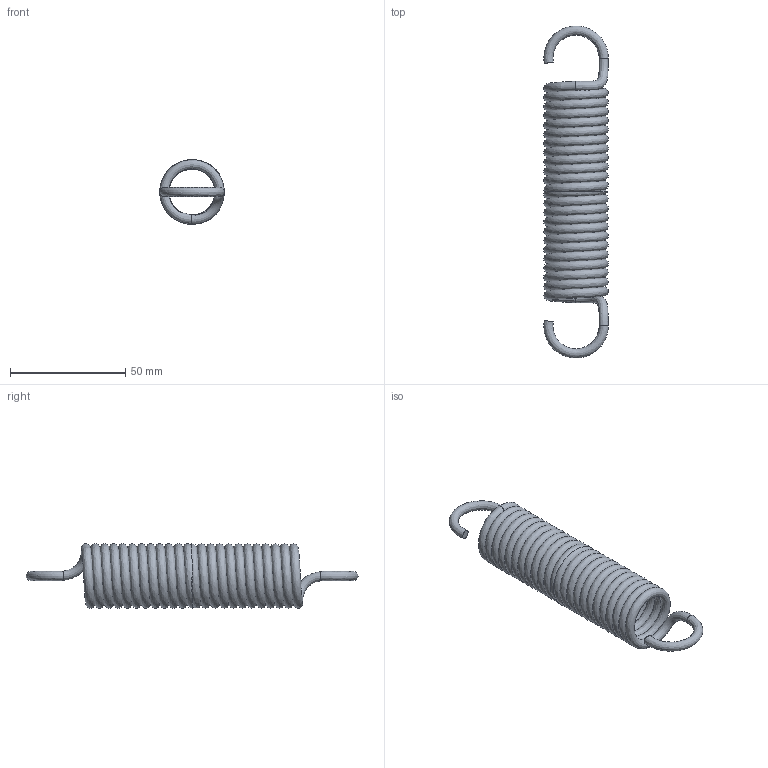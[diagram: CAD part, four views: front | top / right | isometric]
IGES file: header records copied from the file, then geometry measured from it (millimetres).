
Global section: file name: T22370; native system: Autodesk Inventor 2026; preprocessor: unknown; author: J. Iwanek; date: 20261005.102607; units: millimetre
Bounding box: 28 x 143.99 x 28 mm (x, y, z)
Volume: 23473.5 mm3; surface area: 23535.8 mm2
Topology: 1 solids, 1 shells, 10 faces, 36 edges, 24 vertices
Faces by surface type: bspline 10
